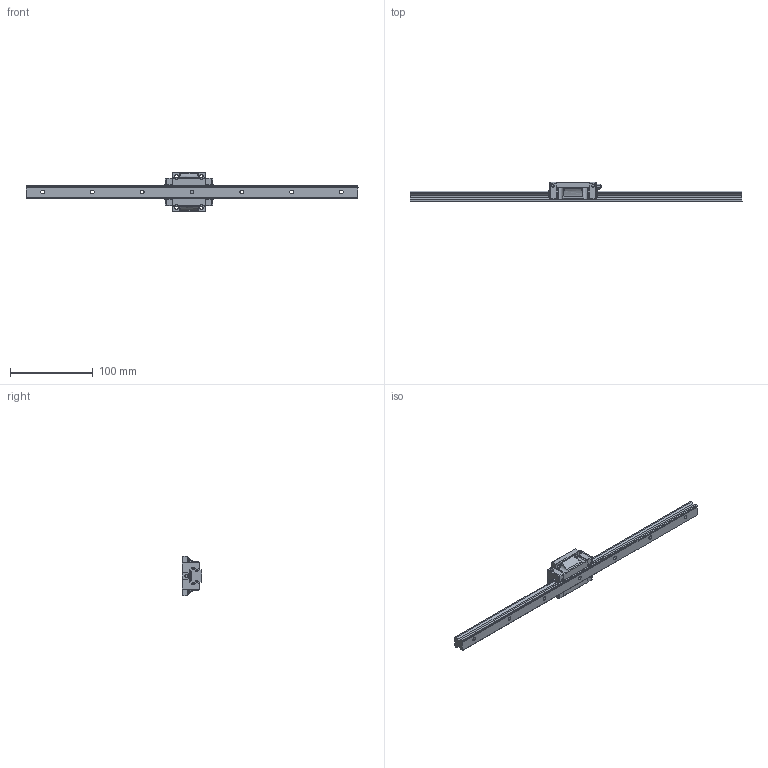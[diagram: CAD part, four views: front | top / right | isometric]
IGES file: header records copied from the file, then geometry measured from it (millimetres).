
Start section: SolidWorks IGES file using analytic representation for surfaces
Global section: file name: C:\Users\tsuch\OneDrive\デスクトップ\EG15関連修正(3D)\EGH15F.IGS; native system: SolidWorks 2019; preprocessor: SolidWorks 2019; author: tsuch; date: 210706.144209; units: millimetre
Bounding box: 400 x 24 x 47 mm (x, y, z)
Surface area: 39699.9 mm2 (no closed solid volume)
Topology: 0 solids, 0 shells, 518 faces, 5470 edges, 5468 vertices
Faces by surface type: bspline 339, revolution 179
